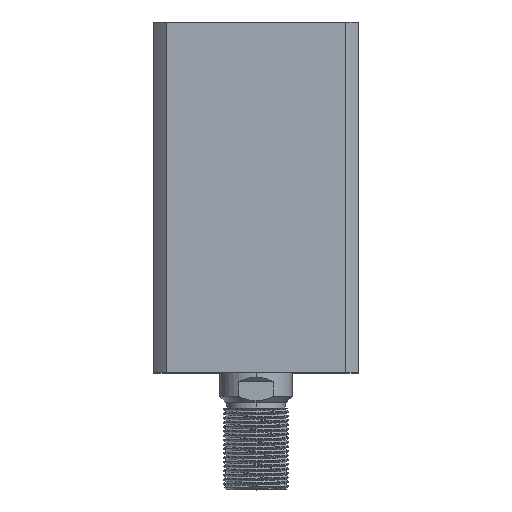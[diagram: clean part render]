
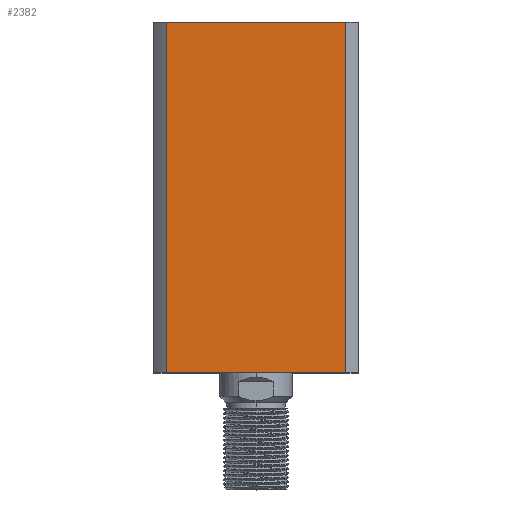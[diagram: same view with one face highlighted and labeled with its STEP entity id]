
A CAD part, top view. The second image highlights one B-rep face of the part: STEP entity #2382.
In plain terms, the highlighted planar face has unit normal (0, 0, 1) as drawn and (1, 0, 0) by its records, which use the part's own axes.
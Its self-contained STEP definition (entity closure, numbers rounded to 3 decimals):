
#433 = VERTEX_POINT ( 'NONE', #2185 ) ;
#582 = LINE ( 'NONE', #8131, #8284 ) ;
#1866 = EDGE_CURVE ( 'NONE', #11805, #9376, #5376, .T. ) ;
#1886 = CARTESIAN_POINT ( 'NONE',  ( 35., 35., 120. ) ) ;
#2073 = FACE_OUTER_BOUND ( 'NONE', #10317, .T. ) ;
#2185 = CARTESIAN_POINT ( 'NONE',  ( 35., 30.615, 0. ) ) ;
#2382 = ADVANCED_FACE ( 'NONE', ( #2073 ), #12389, .F. ) ;
#2444 = AXIS2_PLACEMENT_3D ( 'NONE', #1886, #6103, #13445 ) ;
#2600 = ORIENTED_EDGE ( 'NONE', *, *, #5113, .F. ) ;
#3226 = CARTESIAN_POINT ( 'NONE',  ( 35., -30.615, 300. ) ) ;
#3445 = LINE ( 'NONE', #3226, #8729 ) ;
#3709 = DIRECTION ( 'NONE',  ( 0., 1., 0. ) ) ;
#3816 = ORIENTED_EDGE ( 'NONE', *, *, #12062, .T. ) ;
#4754 = CARTESIAN_POINT ( 'NONE',  ( 35., 35., 120. ) ) ;
#4820 = LINE ( 'NONE', #6123, #7274 ) ;
#4879 = VERTEX_POINT ( 'NONE', #13247 ) ;
#5041 = VECTOR ( 'NONE', #3709, 1000. ) ;
#5113 = EDGE_CURVE ( 'NONE', #4879, #11805, #3445, .T. ) ;
#5240 = DIRECTION ( 'NONE',  ( 0., 0., 1. ) ) ;
#5376 = LINE ( 'NONE', #4754, #5041 ) ;
#6059 = ORIENTED_EDGE ( 'NONE', *, *, #12234, .F. ) ;
#6103 = DIRECTION ( 'NONE',  ( -1., 0., 0. ) ) ;
#6123 = CARTESIAN_POINT ( 'NONE',  ( 35., 30.615, 300. ) ) ;
#7274 = VECTOR ( 'NONE', #13478, 1000. ) ;
#7876 = ORIENTED_EDGE ( 'NONE', *, *, #1866, .F. ) ;
#8131 = CARTESIAN_POINT ( 'NONE',  ( 35., 35., 0. ) ) ;
#8284 = VECTOR ( 'NONE', #9179, 1000. ) ;
#8697 = CARTESIAN_POINT ( 'NONE',  ( 35., -30.615, 120. ) ) ;
#8729 = VECTOR ( 'NONE', #5240, 1000. ) ;
#9179 = DIRECTION ( 'NONE',  ( 0., 1., 0. ) ) ;
#9376 = VERTEX_POINT ( 'NONE', #12912 ) ;
#10317 = EDGE_LOOP ( 'NONE', ( #6059, #7876, #2600, #3816 ) ) ;
#11805 = VERTEX_POINT ( 'NONE', #8697 ) ;
#12062 = EDGE_CURVE ( 'NONE', #4879, #433, #582, .T. ) ;
#12234 = EDGE_CURVE ( 'NONE', #9376, #433, #4820, .T. ) ;
#12389 = PLANE ( 'NONE',  #2444 ) ;
#12912 = CARTESIAN_POINT ( 'NONE',  ( 35., 30.615, 120. ) ) ;
#13247 = CARTESIAN_POINT ( 'NONE',  ( 35., -30.615, 0. ) ) ;
#13445 = DIRECTION ( 'NONE',  ( 0., 0., 1. ) ) ;
#13478 = DIRECTION ( 'NONE',  ( 0., 0., -1. ) ) ;
